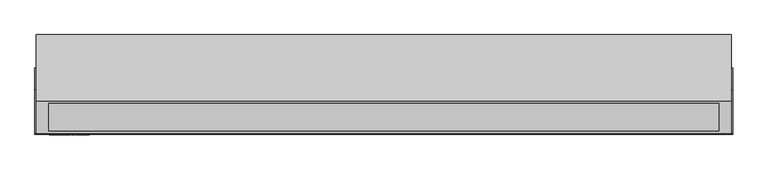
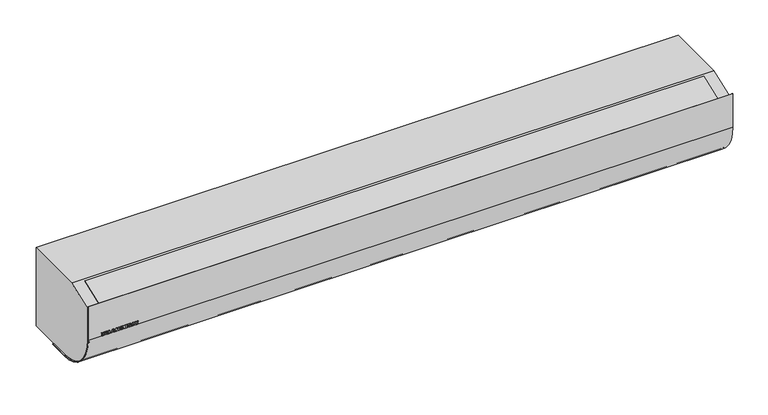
"""IFC4 building model written with IfcOpenShell, lengths in millimetres: proxy geometry, ADSK_Завеса_Электрическая : KVC-C20E12-31."""

from ifc_helpers import new_model, si_unit, point, frame, frame_2d, origin, place, context, project, spatial, polyline, circle_curve, trimmed, segment, composite_curve, outline, extrude, source, transform, mapped, element, save
from ifc_brep_helpers import plane_surface, cylinder_surface, advanced_brep


def mechanical_equipment_9d049b99(model_context):
    return source(origin(), model_context, "Body", "SolidModel", [
        extrude(outline(polyline([(139.0, -959.0196078), (129.0, -959.0196078), (129.0, -955.8823529), (130.7647059, -955.8823529), (132.7745098, -954.1115196), (129.0, -952.2794118), (129.0, -948.4313725), (135.2775735, -951.9056373), (139.0, -948.627451), (139.0, -952.8982843), (135.2224265, -955.8823529), (139.0, -955.8823529), (139.0, -959.0196078)])), frame((0.0, -287.0, 0.0), z_axis=(0.0, 1.0, 0.0), x_axis=(0.0, 0.0, 1.0)), (0.0, 0.0, 1.0), 1.0),
        extrude(outline(polyline([(130.5686275, -941.4338235), (129.0, -940.9803922), (129.0, -937.6470588), (139.0, -941.0202206), (139.0, -945.0582108), (129.0, -948.4313725), (129.0, -945.0980392), (130.5686275, -944.6660539), (130.5686275, -941.4338235)]), holes=[polyline([(132.9215686, -942.0281863), (132.9215686, -944.0165441), (136.4540441, -943.0392157), (132.9215686, -942.0281863)])]), frame((0.0, -287.0, 0.0), z_axis=(0.0, 1.0, 0.0), x_axis=(0.0, 0.0, 1.0)), (0.0, 0.0, 1.0), 1.0),
        extrude(outline(polyline([(139.0, -936.6666667), (129.0, -936.6666667), (129.0, -928.8235294), (131.3529412, -928.8235294), (131.3529412, -933.5294118), (139.0, -933.5294118), (139.0, -936.6666667)])), frame((0.0, -287.0, 0.0), z_axis=(0.0, 1.0, 0.0), x_axis=(0.0, 0.0, 1.0)), (0.0, 0.0, 1.0), 1.0),
        extrude(outline(polyline([(130.5686275, -921.4338235), (129.0, -920.9803922), (129.0, -917.6470588), (139.0, -921.0202206), (139.0, -925.0582108), (129.0, -928.4313725), (129.0, -925.0980392), (130.5686275, -924.6660539), (130.5686275, -921.4338235)]), holes=[polyline([(132.9215686, -922.0281863), (132.9215686, -924.0165441), (136.4540441, -923.0392157), (132.9215686, -922.0281863)])]), frame((0.0, -287.0, 0.0), z_axis=(0.0, 1.0, 0.0), x_axis=(0.0, 0.0, 1.0)), (0.0, 0.0, 1.0), 1.0),
        extrude(outline(polyline([(132.3394608, -917.254902), (129.8026961, -916.1488971), (128.8039216, -912.6378676), (129.2297794, -910.2420343), (130.4813113, -908.7637868), (132.28125, -908.2352941), (133.7870711, -908.6305147), (134.9129902, -909.8958333), (135.8106618, -912.7757353), (137.4313725, -912.9074755), (137.1050858, -912.1338848), (136.0588235, -911.7647059), (136.2395833, -908.627451), (138.4883578, -909.8054534), (139.1960784, -912.6807598), (138.8039216, -915.1011029), (137.7285539, -916.4231005), (136.276348, -916.8627451), (134.3492647, -915.9957108), (133.1237745, -913.1219363), (131.8186275, -911.372549), (131.0818015, -911.6865809), (130.7647059, -912.5796569), (131.3958333, -913.7775735), (132.5294118, -914.1176471), (132.3394608, -917.254902)])), frame((0.0, -287.0, 0.0), z_axis=(0.0, 1.0, 0.0), x_axis=(0.0, 0.0, 1.0)), (0.0, 0.0, 1.0), 1.0),
        extrude(outline(polyline([(139.0, -906.6666667), (129.0, -906.6666667), (129.0, -903.5294118), (133.1176471, -903.5294118), (133.1176471, -900.1960784), (129.0, -900.1960784), (129.0, -897.0588235), (139.0, -897.0588235), (139.0, -900.1960784), (135.4705882, -900.1960784), (135.4705882, -903.5294118), (139.0, -903.5294118), (139.0, -906.6666667)])), frame((0.0, -287.0, 0.0), z_axis=(0.0, 1.0, 0.0), x_axis=(0.0, 0.0, 1.0)), (0.0, 0.0, 1.0), 1.0),
        extrude(outline(polyline([(139.0, -895.0980392), (129.0, -895.0980392), (129.0, -892.1568627), (134.4901961, -892.1568627), (129.0, -888.4313725), (129.0, -885.4901961), (139.0, -885.4901961), (139.0, -888.4313725), (133.4730392, -888.4313725), (139.0, -892.1783088), (139.0, -895.0980392)])), frame((0.0, -287.0, 0.0), z_axis=(0.0, 1.0, 0.0), x_axis=(0.0, 0.0, 1.0)), (0.0, 0.0, 1.0), 1.0),
        extrude(outline(polyline([(-880.1960784, -287.0), (-883.3333333, -287.0), (-883.3333333, -286.0), (-880.1960784, -286.0), (-880.1960784, -287.0)])), frame((0.0, 0.0, 129.0), z_axis=(0.0, 0.0, 1.0), x_axis=(1.0, 0.0, 0.0)), (0.0, 0.0, 1.0), 10.0),
        extrude(outline(polyline([(139.0, -878.0392157), (129.0, -878.0392157), (129.0, -874.9019608), (130.7647059, -874.9019608), (132.7745098, -873.1311275), (129.0, -871.2990196), (129.0, -867.4509804), (135.2775735, -870.9252451), (139.0, -867.6470588), (139.0, -871.9178922), (135.2224265, -874.9019608), (139.0, -874.9019608), (139.0, -878.0392157)])), frame((0.0, -287.0, 0.0), z_axis=(0.0, 1.0, 0.0), x_axis=(0.0, 0.0, 1.0)), (0.0, 0.0, 1.0), 1.0),
        extrude(outline(polyline([(133.9938725, -866.8627451), (131.0603554, -866.171875), (129.346201, -864.3688725), (128.8039216, -861.5594363), (129.4304534, -858.7729779), (131.1859681, -857.0618873), (134.0765931, -856.4705882), (137.8495711, -857.8247549), (139.1960784, -861.685049), (137.8250613, -865.4947917), (133.9938725, -866.8627451)]), holes=[polyline([(133.9938725, -863.7254902), (136.1813725, -863.1678922), (136.8431373, -861.6911765), (136.1920956, -860.1685049), (134.1286765, -859.6078431), (131.8048407, -860.145527), (131.1568627, -861.6636029), (131.8186275, -863.1709559), (133.9938725, -863.7254902)])]), frame((0.0, -287.0, 0.0), z_axis=(0.0, 1.0, 0.0), x_axis=(0.0, 0.0, 1.0)), (0.0, 0.0, 1.0), 1.0),
        extrude(outline(polyline([(139.0, -855.6862745), (129.0, -851.9699755), (129.0, -848.6397059), (139.0, -844.9019608), (139.0, -848.2352941), (131.8033088, -850.2941176), (139.0, -852.3560049), (139.0, -855.6862745)])), frame((0.0, -287.0, 0.0), z_axis=(0.0, 1.0, 0.0), x_axis=(0.0, 0.0, 1.0)), (0.0, 0.0, 1.0), 1.0),
        extrude(outline(polyline([(-19.2222222, 10.0), (-19.2222222, 0.0), (-34.4444444, 10.0), (-34.4444444, 0.0), (-49.6666667, 10.0), (-49.6666667, 0.0), (-64.8888889, 10.0), (-64.8888889, 0.0), (-80.1111111, 10.0), (-80.1111111, 0.0), (-95.2499831, 10.5360909), (-4.0, 10.5360909), (-4.0, 0.0), (-19.2222222, 10.0)])), frame((-960.0, 0.0, 0.0), z_axis=(1.0, 0.0, 0.0), x_axis=(0.0, 1.0, 0.0)), (0.0, 0.0, 1.0), 1920.0),
        advanced_brep(
        [(996.0, -190.6666667, 258.0), (996.0, -284.0, 223.0), (996.0, -284.0, 129.0), (996.0, -157.0, 2.0), (996.0, 0.0, 2.0), (996.0, 0.0, 258.0), (-996.0, -190.6666667, 258.0), (-996.0, 0.0, 258.0), (-996.0, 0.0, 2.0), (-996.0, -157.0, 2.0), (-996.0, -284.0, 129.0), (-996.0, -284.0, 223.0), (960.0, -4.0, 2.0), (-960.0, -4.0, 2.0), (-960.0, -95.3333333, 2.0), (960.0, -95.3333333, 2.0), (960.0, -4.0, 10.0), (960.0, -95.3333333, 10.0), (-960.0, -95.3333333, 10.0), (-960.0, -4.0, 10.0)],
        [
            (0, 1),
            (1, 2),
            (2, 3, circle_curve(frame((996.0, -157.0, 129.0), z_axis=(1.0, 0.0, 0.0), x_axis=(0.0, 1.0, 0.0)), 127.0)),
            (3, 4),
            (4, 5),
            (5, 0),
            (6, 7),
            (7, 8),
            (8, 9),
            (9, 10, circle_curve(frame((-996.0, -157.0, 129.0), z_axis=(-1.0, 0.0, 0.0), x_axis=(0.0, 1.0, 0.0)), 127.0)),
            (10, 11),
            (11, 6),
            (1, 11),
            (10, 2),
            (4, 8),
            (7, 5),
            (6, 0),
            (9, 3),
            (12, 13),
            (13, 14),
            (14, 15),
            (15, 12),
            (16, 17),
            (17, 18),
            (18, 19),
            (19, 16),
            (19, 13),
            (12, 16),
            (18, 14),
            (17, 15),
        ],
        [
            plane_surface(frame((996.0, -190.6666667, 258.0), z_axis=(1.0000000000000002, 0.0, 0.0), x_axis=(0.0, -0.9363291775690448, -0.3511234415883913))),
            plane_surface(frame((-996.0, -190.6666667, 258.0), z_axis=(-1.0000000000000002, 0.0, 0.0), x_axis=(0.0, 0.9363291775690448, 0.3511234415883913))),
            plane_surface(frame((996.0, -284.0, 223.0), z_axis=(0.0, -1.0, 0.0), x_axis=(-1.0, 0.0, 0.0))),
            plane_surface(frame((996.0, 0.0, 2.0), z_axis=(0.0, 1.0, 0.0), x_axis=(-1.0, 0.0, 0.0))),
            plane_surface(frame((996.0, 0.0, 258.0), z_axis=(0.0, 0.0, 1.0), x_axis=(-1.0, 0.0, 0.0))),
            cylinder_surface(frame((-996.0, -157.0, 129.0), z_axis=(1.0, 0.0, 0.0), x_axis=(0.0, 1.0, 0.0)), 127.0),
            plane_surface(frame((996.0, -157.0, 2.0), z_axis=(0.0, 0.0, -1.0), x_axis=(-1.0, 0.0, 0.0))),
            plane_surface(frame((996.0, -190.6666667, 258.0), z_axis=(0.0, -0.3511234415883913, 0.9363291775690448), x_axis=(-1.0, 0.0, 0.0))),
            plane_surface(frame((-960.0, -4.0, 10.0), z_axis=(0.0, 0.0, -1.0), x_axis=(-1.0, 0.0, 0.0))),
            plane_surface(frame((960.0, -4.0, 10.0), z_axis=(0.0, -1.0, 0.0), x_axis=(0.0, 0.0, -1.0))),
            plane_surface(frame((-960.0, -4.0, 10.0), z_axis=(1.0, 0.0, 0.0), x_axis=(0.0, 0.0, -1.0))),
            plane_surface(frame((-960.0, -95.3333333, 10.0), z_axis=(0.0, 1.0, 0.0), x_axis=(0.0, 0.0, -1.0))),
            plane_surface(frame((960.0, -95.3333333, 10.0), z_axis=(-1.0, 0.0, 0.0), x_axis=(0.0, 0.0, -1.0))),
        ],
        [
            (0, [[1, 2, 3, 4, 5, 6]]),
            (1, [[7, 8, 9, 10, 11, 12]]),
            (2, [[-2, 13, -11, 14]]),
            (3, [[-5, 15, -8, 16]]),
            (4, [[-6, -16, -7, 17]]),
            (5, [[-3, -14, -10, 18]]),
            (6, [[-4, -18, -9, -15], [19, 20, 21, 22]]),
            (7, [[-1, -17, -12, -13]]),
            (8, [[23, 24, 25, 26]]),
            (9, [[-26, 27, -19, 28]]),
            (10, [[-25, 29, -20, -27]]),
            (11, [[-24, 30, -21, -29]]),
            (12, [[-23, -28, -22, -30]]),
        ],
    ),
        extrude(outline(polyline([(0.0, -83.2824191), (0.0, 0.0), (1920.0, 0.0), (1920.0, -83.2824191), (0.0, -83.2824191)])), frame((960.0, -275.390912, 225.5666685), z_axis=(0.0, -0.3511234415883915, 0.9363291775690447), x_axis=(-1.0, 0.0, 0.0)), (0.0, 0.0, 1.0), 1.2392119),
        extrude(outline(composite_curve([segment(polyline([(-286.0, 238.0), (-284.0, 238.0), (-284.0, 129.0)]), True, "CONTINUOUS"), segment(trimmed(circle_curve(frame_2d((-157.0, 129.0)), 127.0), [point((-284.0, 129.0))], [point((-157.0, 2.0))], True, "CARTESIAN"), True, "CONTINUOUS"), segment(polyline([(-157.0, 2.0), (-95.3333333, 2.0), (-95.3333333, 0.0), (-157.0, 0.0)]), True, "CONTINUOUS"), segment(trimmed(circle_curve(frame_2d((-157.0, 129.0)), 129.0), [point((-157.0, 0.0))], [point((-286.0, 129.0))], False, "CARTESIAN"), True, "CONTINUOUS"), segment(polyline([(-286.0, 129.0), (-286.0, 238.0)]), True, "CONTINUOUS")], self_intersect=False)), frame((-1000.0, 0.0, 0.0), z_axis=(1.0, 0.0, 0.0), x_axis=(0.0, 1.0, 0.0)), (0.0, 0.0, 1.0), 2000.0),
    ])


if __name__ == "__main__":
    model = new_model("IFC4")
    model_context = context("Model", 3, world=origin())
    ifc_project = project(units=[si_unit("LENGTHUNIT", "METRE", prefix="MILLI")], contexts=[model_context])
    site = spatial("IfcSite", under=ifc_project)
    building = spatial("IfcBuilding", under=site)
    placement = place(None, origin())
    mechanical_equipment_shape = mechanical_equipment_9d049b99(model_context)
    element("IfcBuildingElementProxy", 1, Name="ADSK_Завеса_Электрическая : KVC-C20E12-31", ObjectType="ADSK_Завеса_Электрическая : KVC-C20E12-31", at=placement, inside=building, context=model_context, shape_type="MappedRepresentation", body=[
        mapped(mechanical_equipment_shape, transform((0.0, 0.0, 0.0), x_axis=(1.0, 0.0, 0.0), y_axis=(0.0, 1.0, 0.0), z_axis=(0.0, 0.0, 1.0))),
    ])
    save(model, "model.ifc")
